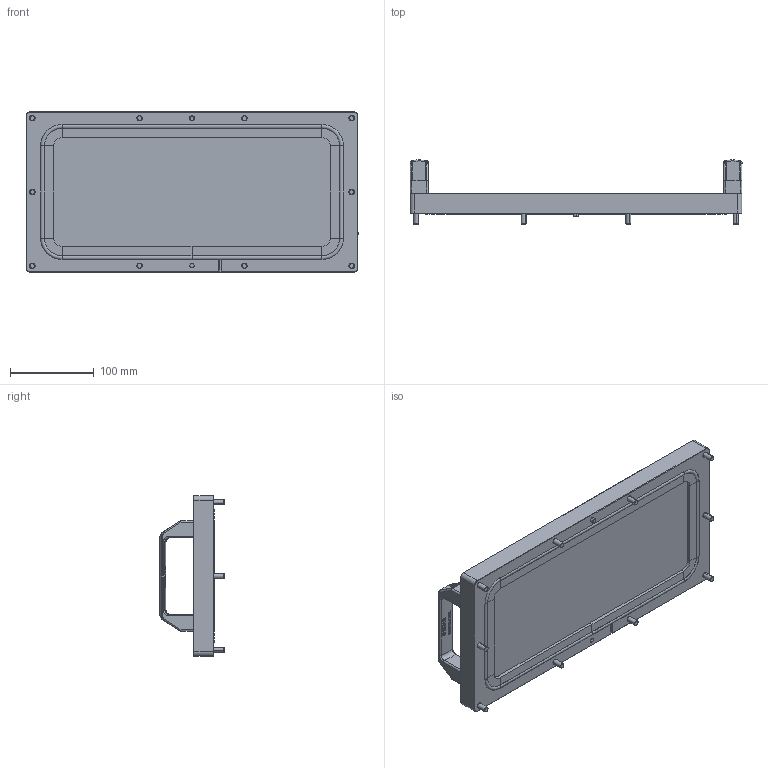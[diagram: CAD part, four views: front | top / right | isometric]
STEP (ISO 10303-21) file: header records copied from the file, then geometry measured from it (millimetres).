
FILE_DESCRIPTION (( 'STEP AP214' ), '1' );
FILE_NAME ('JKR3315-G-A-V-A-200503.STEP', '2020-05-03T06:00:20', ( '' ), ( '' ), 'SwSTEP 2.0', 'SolidWorks 2018', '' );
FILE_SCHEMA (( 'AUTOMOTIVE_DESIGN' ));
Length unit declared in the file: millimetre
Products named in the file (10): bycs-8; COM-005-6-10L; JKR3315-02B; JKR3315-01A; JKR3315-08A; JKR3315-05A; COM-001-M6-30_ル遽; JKR3315-G-A-V-A-200503; JKR3315-04A; JKR3315-03C
Assembly tree (19 placements, depth 2):
  JKR3315-G-A-V-A-200503
    JKR3315-03C
    JKR3315-04A
    JKR3315-01A
    JKR3315-02B
    JKR3315-05A
    COM-001-M6-30_ル遽  x10
    COM-005-6-10L
    bycs-8  x2
    JKR3315-08A
Bounding box: 396 x 76.38 x 191 mm (x, y, z)
Volume: 1415191.4 mm3; surface area: 351210.6 mm2
Topology: 17 solids, 19 shells, 1573 faces, 4079 edges, 2607 vertices
Faces by surface type: plane 1076, cylinder 309, cone 100, torus 68, bspline 20
Entity records: 28946 total; most frequent: CARTESIAN_POINT 7982, ORIENTED_EDGE 4606, DIRECTION 4068, EDGE_CURVE 2307, AXIS2_PLACEMENT_3D 1512, VERTEX_POINT 1457, LINE 1044, VECTOR 1044
